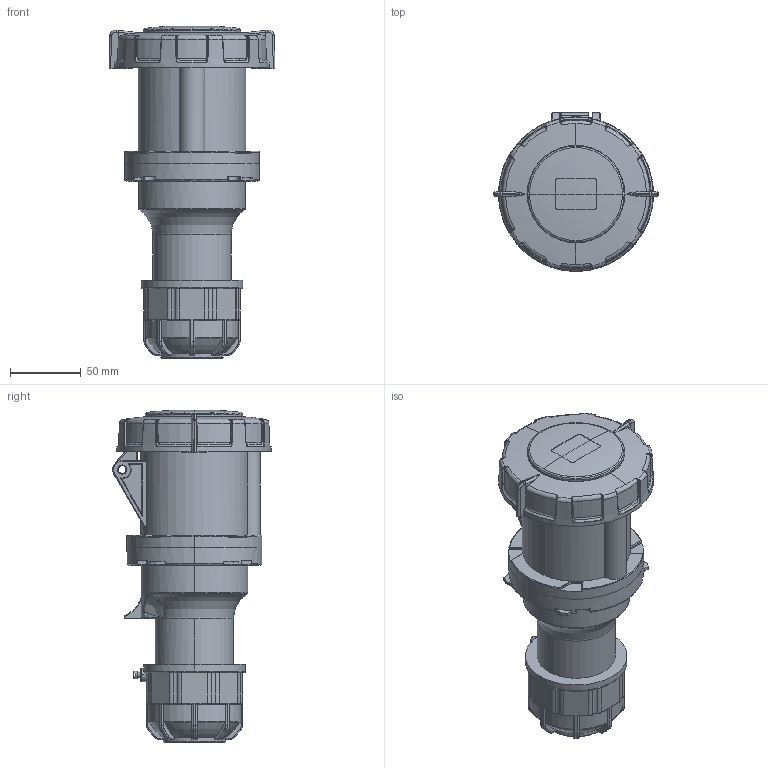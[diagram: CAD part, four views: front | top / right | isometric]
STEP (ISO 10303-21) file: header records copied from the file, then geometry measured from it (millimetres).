
FILE_DESCRIPTION(('FreeCAD Model'),'2;1');
FILE_NAME('Open CASCADE Shape Model','2026-02-04T11:01:35',(''),(''), 'Open CASCADE STEP processor 7.8','FreeCAD','Unknown');
FILE_SCHEMA(('AUTOMOTIVE_DESIGN { 1 0 10303 214 1 1 1 1 }'));
Length unit declared in the file: millimetre
Products named in the file (8): TL3T63653; tomada; Tampa parte 2; Corpo tomada; Terminais; Tampa parte 1; Prensa cabo; Parafuso prensa cabo
Assembly tree (7 placements, depth 2):
  TL3T63653
    tomada
    Tampa parte 2
    Corpo tomada
    Terminais
    Tampa parte 1
    Prensa cabo
    Parafuso prensa cabo
Bounding box: 117.39 x 112.5 x 234.85 mm (x, y, z)
Volume: 740499.3 mm3; surface area: 197189.2 mm2
Topology: 7 solids, 8 shells, 2032 faces, 5772 edges, 3795 vertices
Faces by surface type: plane 1033, cylinder 488, bspline 218, torus 196, cone 75, sphere 22
Full cylindrical faces by diameter (mm): 3.5 x1, 5.3 x1, 18.5 x1, 74 x1, 99.8 x1
Entity records: 78811 total; most frequent: CARTESIAN_POINT 27801, ORIENTED_EDGE 11518, DIRECTION 9695, EDGE_CURVE 5759, VERTEX_POINT 3795, AXIS2_PLACEMENT_3D 3463, LINE 2769, VECTOR 2769
